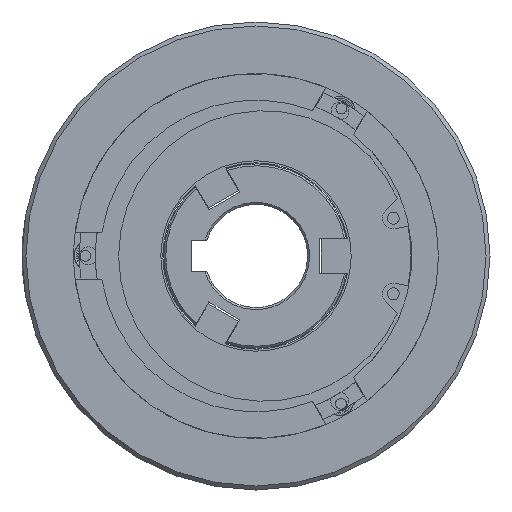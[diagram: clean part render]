
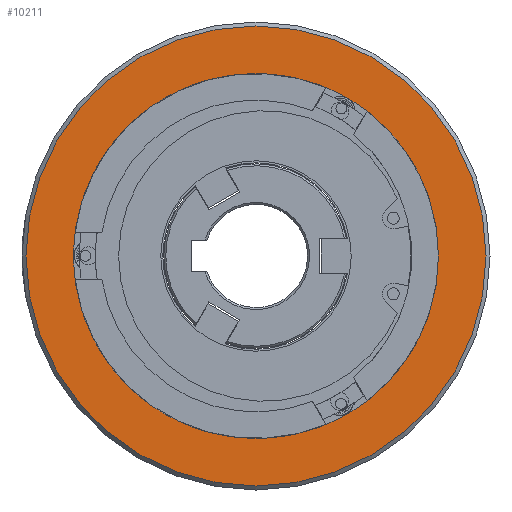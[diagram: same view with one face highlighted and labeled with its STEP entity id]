
A CAD part, left-side view. The second image highlights one B-rep face of the part: STEP entity #10211.
In plain terms, the highlighted planar face has unit normal (-1, 0, 0).
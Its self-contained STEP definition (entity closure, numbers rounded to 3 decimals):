
#679=FACE_BOUND('',#3291,.T.);
#2203=PLANE('',#11231);
#2670=FACE_OUTER_BOUND('',#3290,.T.);
#3290=EDGE_LOOP('',(#8849));
#3291=EDGE_LOOP('',(#8850,#8851));
#4045=CIRCLE('',#11170,46.);
#4046=CIRCLE('',#11171,46.);
#4078=CIRCLE('',#11232,58.);
#4933=VERTEX_POINT('',#29522);
#4934=VERTEX_POINT('',#29523);
#4990=VERTEX_POINT('',#29744);
#6258=EDGE_CURVE('',#4933,#4934,#4045,.T.);
#6259=EDGE_CURVE('',#4934,#4933,#4046,.T.);
#6345=EDGE_CURVE('',#4990,#4990,#4078,.T.);
#8849=ORIENTED_EDGE('',*,*,#6345,.F.);
#8850=ORIENTED_EDGE('',*,*,#6258,.T.);
#8851=ORIENTED_EDGE('',*,*,#6259,.T.);
#10211=ADVANCED_FACE('',(#2670,#679),#2203,.T.);
#11170=AXIS2_PLACEMENT_3D('',#29524,#13348,#13349);
#11171=AXIS2_PLACEMENT_3D('',#29525,#13350,#13351);
#11231=AXIS2_PLACEMENT_3D('',#29743,#13520,#13521);
#11232=AXIS2_PLACEMENT_3D('',#29745,#13522,#13523);
#13348=DIRECTION('center_axis',(1.,0.,0.));
#13349=DIRECTION('ref_axis',(0.,1.,0.));
#13350=DIRECTION('center_axis',(1.,0.,0.));
#13351=DIRECTION('ref_axis',(0.,1.,0.));
#13520=DIRECTION('center_axis',(-1.,0.,0.));
#13521=DIRECTION('ref_axis',(0.,0.,
1.));
#13522=DIRECTION('center_axis',(1.,0.,0.));
#13523=DIRECTION('ref_axis',(0.,-1.,0.));
#29522=CARTESIAN_POINT('',(-29.,46.,0.));
#29523=CARTESIAN_POINT('',(-29.,-46.,0.));
#29524=CARTESIAN_POINT('Origin',(-29.,0.,0.));
#29525=CARTESIAN_POINT('Origin',(-29.,0.,0.));
#29743=CARTESIAN_POINT('Origin',(-29.,52.5,0.));
#29744=CARTESIAN_POINT('',(-29.,58.,0.));
#29745=CARTESIAN_POINT('Origin',(-29.,0.,0.));
